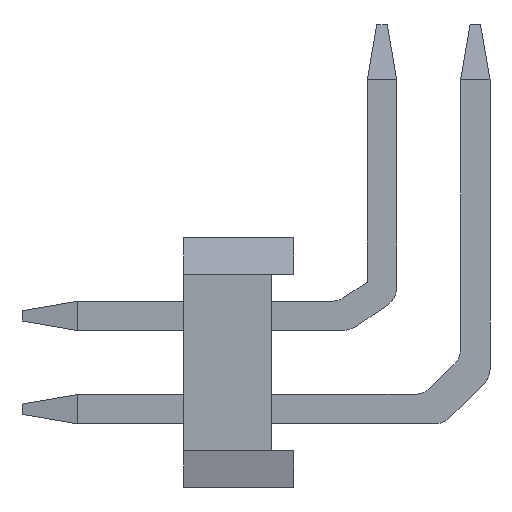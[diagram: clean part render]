
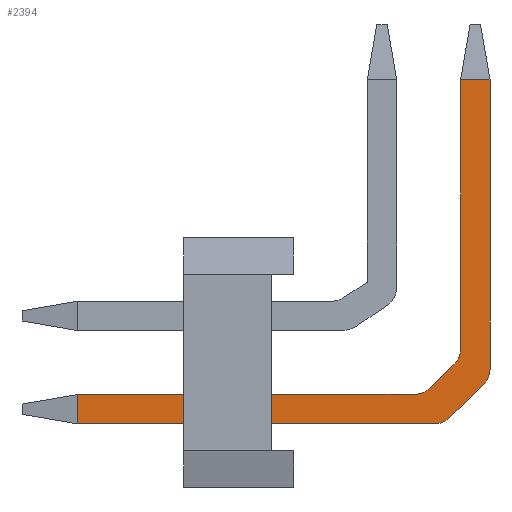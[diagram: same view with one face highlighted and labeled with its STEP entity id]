
A CAD part, left-side view. The second image highlights one B-rep face of the part: STEP entity #2394.
In plain terms, the highlighted planar face has unit normal (-1, 0, 0).
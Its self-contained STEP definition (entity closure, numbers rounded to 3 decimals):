
#25=CIRCLE('',#2532,0.3);
#26=CIRCLE('',#2533,0.3);
#27=CIRCLE('',#2534,0.3);
#28=CIRCLE('',#2535,0.3);
#545=ORIENTED_EDGE('',*,*,#975,.F.);
#546=ORIENTED_EDGE('',*,*,#976,.F.);
#547=ORIENTED_EDGE('',*,*,#977,.T.);
#548=ORIENTED_EDGE('',*,*,#978,.F.);
#549=ORIENTED_EDGE('',*,*,#979,.T.);
#550=ORIENTED_EDGE('',*,*,#980,.F.);
#551=ORIENTED_EDGE('',*,*,#981,.T.);
#552=ORIENTED_EDGE('',*,*,#982,.T.);
#553=ORIENTED_EDGE('',*,*,#983,.F.);
#554=ORIENTED_EDGE('',*,*,#984,.F.);
#555=ORIENTED_EDGE('',*,*,#985,.F.);
#556=ORIENTED_EDGE('',*,*,#986,.F.);
#975=EDGE_CURVE('',#1228,#1229,#1518,.T.);
#976=EDGE_CURVE('',#1230,#1228,#1519,.T.);
#977=EDGE_CURVE('',#1230,#1231,#25,.T.);
#978=EDGE_CURVE('',#1232,#1231,#1520,.T.);
#979=EDGE_CURVE('',#1232,#1233,#26,.T.);
#980=EDGE_CURVE('',#1234,#1233,#1521,.T.);
#981=EDGE_CURVE('',#1234,#1235,#1522,.T.);
#982=EDGE_CURVE('',#1235,#1236,#1523,.T.);
#983=EDGE_CURVE('',#1237,#1236,#27,.T.);
#984=EDGE_CURVE('',#1238,#1237,#1524,.T.);
#985=EDGE_CURVE('',#1239,#1238,#28,.T.);
#986=EDGE_CURVE('',#1229,#1239,#1525,.T.);
#1228=VERTEX_POINT('',#3669);
#1229=VERTEX_POINT('',#3670);
#1230=VERTEX_POINT('',#3672);
#1231=VERTEX_POINT('',#3674);
#1232=VERTEX_POINT('',#3676);
#1233=VERTEX_POINT('',#3678);
#1234=VERTEX_POINT('',#3680);
#1235=VERTEX_POINT('',#3682);
#1236=VERTEX_POINT('',#3684);
#1237=VERTEX_POINT('',#3686);
#1238=VERTEX_POINT('',#3688);
#1239=VERTEX_POINT('',#3690);
#1518=LINE('',#3668,#1833);
#1519=LINE('',#3671,#1834);
#1520=LINE('',#3675,#1835);
#1521=LINE('',#3679,#1836);
#1522=LINE('',#3681,#1837);
#1523=LINE('',#3683,#1838);
#1524=LINE('',#3687,#1839);
#1525=LINE('',#3691,#1840);
#1833=VECTOR('',#2988,1000.);
#1834=VECTOR('',#2989,1000.);
#1835=VECTOR('',#2992,1000.);
#1836=VECTOR('',#2995,1000.);
#1837=VECTOR('',#2996,1000.);
#1838=VECTOR('',#2997,1000.);
#1839=VECTOR('',#3000,1000.);
#1840=VECTOR('',#3003,1000.);
#2018=EDGE_LOOP('',(#545,#546,#547,#548,#549,#550,#551,#552,#553,#554,#555,
#556));
#2159=FACE_BOUND('',#2018,.T.);
#2280=PLANE('',#2531);
#2394=ADVANCED_FACE('',(#2159),#2280,.F.);
#2531=AXIS2_PLACEMENT_3D('',#3667,#2986,#2987);
#2532=AXIS2_PLACEMENT_3D('',#3673,#2990,#2991);
#2533=AXIS2_PLACEMENT_3D('',#3677,#2993,#2994);
#2534=AXIS2_PLACEMENT_3D('',#3685,#2998,#2999);
#2535=AXIS2_PLACEMENT_3D('',#3689,#3001,#3002);
#2986=DIRECTION('',(1.,0.,0.));
#2987=DIRECTION('',(0.,0.,-1.));
#2988=DIRECTION('',(0.,-1.,0.));
#2989=DIRECTION('',(0.,0.,1.));
#2990=DIRECTION('',(1.,0.,0.));
#2991=DIRECTION('',(0.,0.,-1.));
#2992=DIRECTION('',(0.,-0.714,0.7));
#2993=DIRECTION('',(1.,0.,0.));
#2994=DIRECTION('',(0.,0.,-1.));
#2995=DIRECTION('',(0.,-1.,0.));
#2996=DIRECTION('',(0.,0.,-1.));
#2997=DIRECTION('',(0.,-1.,0.));
#2998=DIRECTION('',(1.,0.,0.));
#2999=DIRECTION('',(0.,0.,-1.));
#3000=DIRECTION('',(0.,0.715,-0.699));
#3001=DIRECTION('',(1.,0.,0.));
#3002=DIRECTION('',(0.,0.,-1.));
#3003=DIRECTION('',(0.,0.,-1.));
#3667=CARTESIAN_POINT('',(-0.2,1.45,0.2));
#3668=CARTESIAN_POINT('',(-0.2,-3.77,4.485));
#3669=CARTESIAN_POINT('',(-0.2,-3.77,4.485));
#3670=CARTESIAN_POINT('',(-0.2,-4.17,4.485));
#3671=CARTESIAN_POINT('',(-0.2,-3.77,0.827));
#3672=CARTESIAN_POINT('',(-0.2,-3.77,0.827));
#3673=CARTESIAN_POINT('',(-0.2,-3.47,0.827));
#3674=CARTESIAN_POINT('',(-0.2,-3.68,0.612));
#3675=CARTESIAN_POINT('',(-0.2,-3.347,0.286));
#3676=CARTESIAN_POINT('',(-0.2,-3.347,0.286));
#3677=CARTESIAN_POINT('',(-0.2,-3.137,0.5));
#3678=CARTESIAN_POINT('',(-0.2,-3.137,0.2));
#3679=CARTESIAN_POINT('',(-0.2,1.45,0.2));
#3680=CARTESIAN_POINT('',(-0.2,1.45,0.2));
#3681=CARTESIAN_POINT('',(-0.2,1.45,0.2));
#3682=CARTESIAN_POINT('',(-0.2,1.45,-0.2));
#3683=CARTESIAN_POINT('',(-0.2,1.45,-0.2));
#3684=CARTESIAN_POINT('',(-0.2,-3.414,-0.2));
#3685=CARTESIAN_POINT('',(-0.2,-3.414,0.1));
#3686=CARTESIAN_POINT('',(-0.2,-3.624,-0.114));
#3687=CARTESIAN_POINT('',(-0.2,-4.08,0.332));
#3688=CARTESIAN_POINT('',(-0.2,-4.08,0.332));
#3689=CARTESIAN_POINT('',(-0.2,-3.87,0.546));
#3690=CARTESIAN_POINT('',(-0.2,-4.17,0.546));
#3691=CARTESIAN_POINT('',(-0.2,-4.17,4.485));
